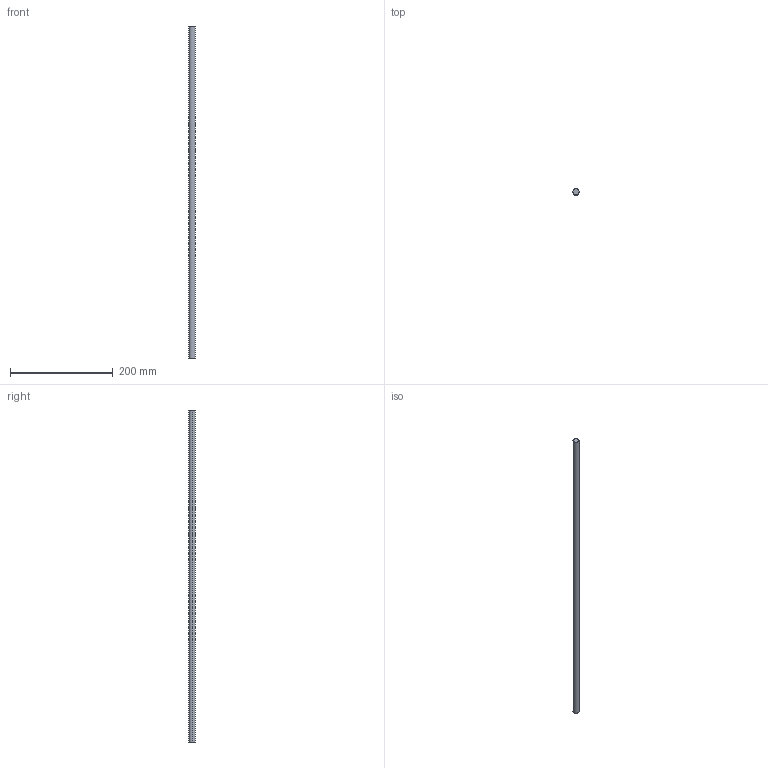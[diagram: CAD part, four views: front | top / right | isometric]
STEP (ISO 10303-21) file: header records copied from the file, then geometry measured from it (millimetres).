
FILE_DESCRIPTION (( 'STEP AP214' ), '1' );
FILE_NAME ('Magic Reling quer - S16_S17 - 750.step', '2010-09-07T14:56:08', ( 'grass' ), ( '' ), 'SwSTEP 2.0', 'SolidWorks 2010', '' );
FILE_SCHEMA (( 'AUTOMOTIVE_DESIGN' ));
Length unit declared in the file: millimetre
Products named in the file (1): Magic Reling quer - S16_S17 - 750
Bounding box: 12 x 12 x 645 mm (x, y, z)
Volume: 72947.8 mm3; surface area: 24542.1 mm2
Topology: 1 solids, 1 shells, 4 faces, 6 edges, 4 vertices
Faces by surface type: cylinder 2, plane 2
Entity records: 128 total; most frequent: DIRECTION 20, CARTESIAN_POINT 15, ORIENTED_EDGE 12, AXIS2_PLACEMENT_3D 9, EDGE_CURVE 6, VERTEX_POINT 4, ADVANCED_FACE 4, EDGE_LOOP 4
